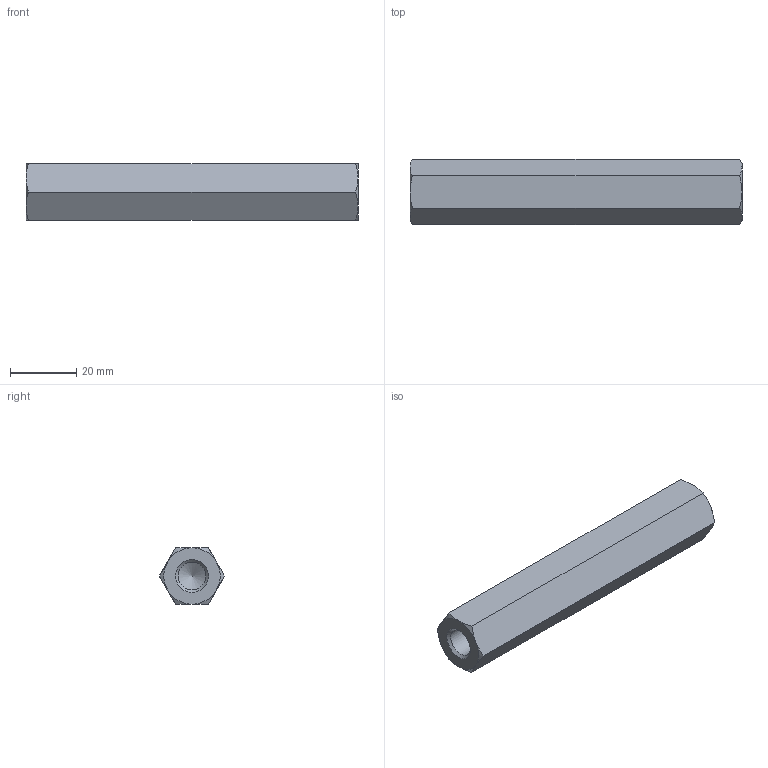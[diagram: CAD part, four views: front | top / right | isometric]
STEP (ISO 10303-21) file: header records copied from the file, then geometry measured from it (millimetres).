
FILE_DESCRIPTION( ( 'STEP AP203' ), '1' );
FILE_NAME( 'C:/Temp/Ganter_Step_05_03_2020/data/3_2/gn6220/gn6220_st/Spacer GN 6220-ST-M10-100-A.stp', '2020-03-13T05:42:38', ( 'License CC BY-ND 4.0' ), ( 'CADENAS' ), ' ', 'PARTsolutions', ' ' );
FILE_SCHEMA( ( 'CONFIG_CONTROL_DESIGN' ) );
Length unit declared in the file: millimetre
Products named in the file (1): _Spacer GN 6220-ST-M10-100-A
Bounding box: 100 x 19.63 x 17 mm (x, y, z)
Volume: 22118.5 mm3; surface area: 7692.6 mm2
Topology: 1 solids, 1 shells, 26 faces, 57 edges, 33 vertices
Faces by surface type: cone 16, plane 8, cylinder 2
Full cylindrical faces by diameter (mm): 8.376 x2
Entity records: 782 total; most frequent: CARTESIAN_POINT 243, DIRECTION 96, ORIENTED_EDGE 96, EDGE_CURVE 48, AXIS2_PLACEMENT_3D 45, EDGE_LOOP 32, VERTEX_POINT 32, FACE_OUTER_BOUND 28
